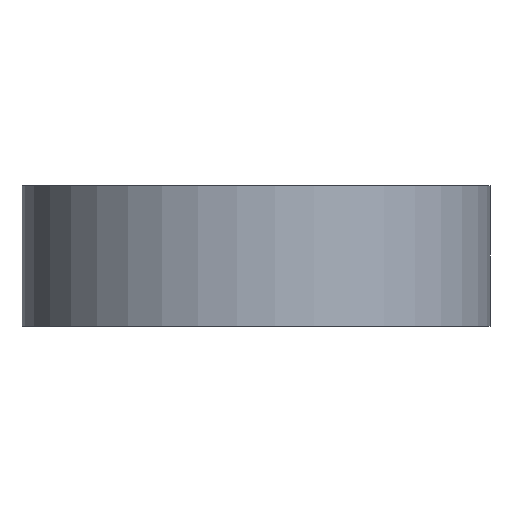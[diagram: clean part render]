
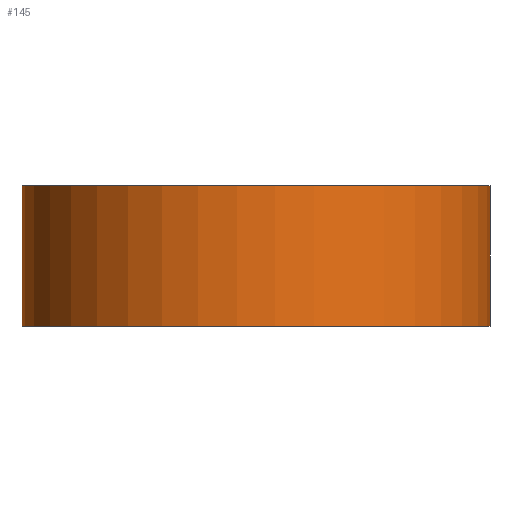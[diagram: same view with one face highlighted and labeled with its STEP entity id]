
A CAD part, left-side view. The second image highlights one B-rep face of the part: STEP entity #145.
In plain terms, the highlighted cylindrical face has radius 5 mm (diameter 10 mm), a partial arc.
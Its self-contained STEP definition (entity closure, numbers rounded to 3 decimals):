
#27=FACE_OUTER_BOUND('',#35,.T.);
#35=EDGE_LOOP('',(#117,#118,#119,#120));
#49=LINE('',#256,#59);
#50=LINE('',#262,#60);
#59=VECTOR('',#213,10.);
#60=VECTOR('',#220,10.);
#69=CIRCLE('',#180,5.);
#70=CIRCLE('',#181,5.);
#79=VERTEX_POINT('',#252);
#80=VERTEX_POINT('',#254);
#81=VERTEX_POINT('',#258);
#82=VERTEX_POINT('',#260);
#95=EDGE_CURVE('',#79,#80,#49,.T.);
#96=EDGE_CURVE('',#79,#81,#69,.T.);
#97=EDGE_CURVE('',#82,#80,#70,.T.);
#98=EDGE_CURVE('',#81,#82,#50,.T.);
#117=ORIENTED_EDGE('',*,*,#96,.F.);
#118=ORIENTED_EDGE('',*,*,#95,.T.);
#119=ORIENTED_EDGE('',*,*,#97,.F.);
#120=ORIENTED_EDGE('',*,*,#98,.F.);
#140=CYLINDRICAL_SURFACE('',#179,5.);
#145=ADVANCED_FACE('',(#27),#140,.T.);
#179=AXIS2_PLACEMENT_3D('',#257,#214,#215);
#180=AXIS2_PLACEMENT_3D('',#259,#216,#217);
#181=AXIS2_PLACEMENT_3D('',#261,#218,#219);
#213=DIRECTION('',(0.,0.,-1.));
#214=DIRECTION('center_axis',(0.,0.,-1.));
#215=DIRECTION('ref_axis',(-1.,0.,0.));
#216=DIRECTION('center_axis',(0.,0.,1.));
#217=DIRECTION('ref_axis',(0.006,1.,0.));
#218=DIRECTION('center_axis',(0.,0.,-1.));
#219=DIRECTION('ref_axis',(0.006,1.,0.));
#220=DIRECTION('',(0.,0.,-1.));
#252=CARTESIAN_POINT('',(0.031,5.,0.));
#254=CARTESIAN_POINT('',(0.031,5.,-3.));
#256=CARTESIAN_POINT('',(0.031,5.,0.));
#257=CARTESIAN_POINT('Origin',(0.,0.,0.));
#258=CARTESIAN_POINT('',(0.031,-5.,0.));
#259=CARTESIAN_POINT('Origin',(0.,0.,0.));
#260=CARTESIAN_POINT('',(0.031,-5.,-3.));
#261=CARTESIAN_POINT('Origin',(0.,0.,-3.));
#262=CARTESIAN_POINT('',(0.031,-5.,0.));
